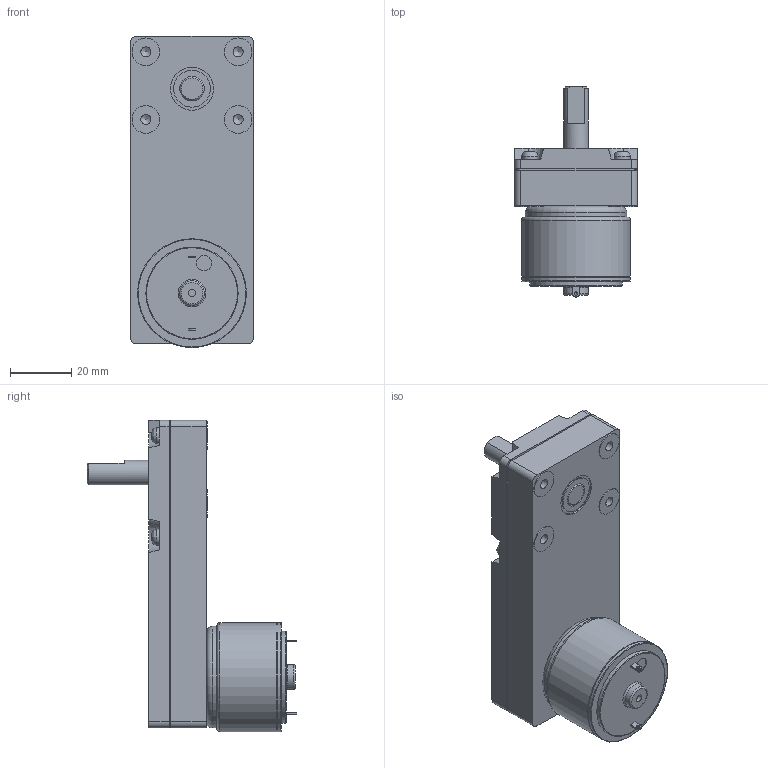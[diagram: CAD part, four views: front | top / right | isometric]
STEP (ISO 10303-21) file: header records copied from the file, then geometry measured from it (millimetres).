
FILE_DESCRIPTION((''),'2;1');
FILE_NAME('C:\Documents and Settings\SSEGAWA\デスクトップ\TP-3526E-IML.STP','2013-07-11T10:48:04',('SSEGAWA'),(''),'Autodesk Inventor 2010','Autodesk Inventor 2010','');
FILE_SCHEMA(('CONFIG_CONTROL_DESIGN'));
Length unit declared in the file: millimetre
Products named in the file (3): tp_3526e_igl_iml; igl,iml; tp_3526e
Assembly tree (2 placements, depth 2):
  tp_3526e_igl_iml
    igl,iml
    tp_3526e
Bounding box: 40 x 68.2 x 101.2 mm (x, y, z)
Volume: 98368.5 mm3; surface area: 20336.7 mm2
Topology: 2 solids, 2 shells, 140 faces, 313 edges, 205 vertices
Faces by surface type: plane 60, cylinder 36, bspline 32, cone 7, torus 5
Full cylindrical faces by diameter (mm): 1.1 x1, 2 x1, 2.4 x1, 5 x1, 5.2 x2, 8 x3, 9 x4, 10 x2, 12 x1, 14 x1, 30 x1, 33 x1, 35 x1, 35.4 x2
Entity records: 4115 total; most frequent: CARTESIAN_POINT 1251, DIRECTION 586, ORIENTED_EDGE 476, EDGE_CURVE 238, AXIS2_PLACEMENT_3D 237, EDGE_LOOP 233, VERTEX_POINT 187, FACE_OUTER_BOUND 140
